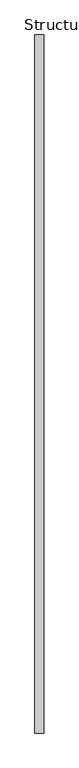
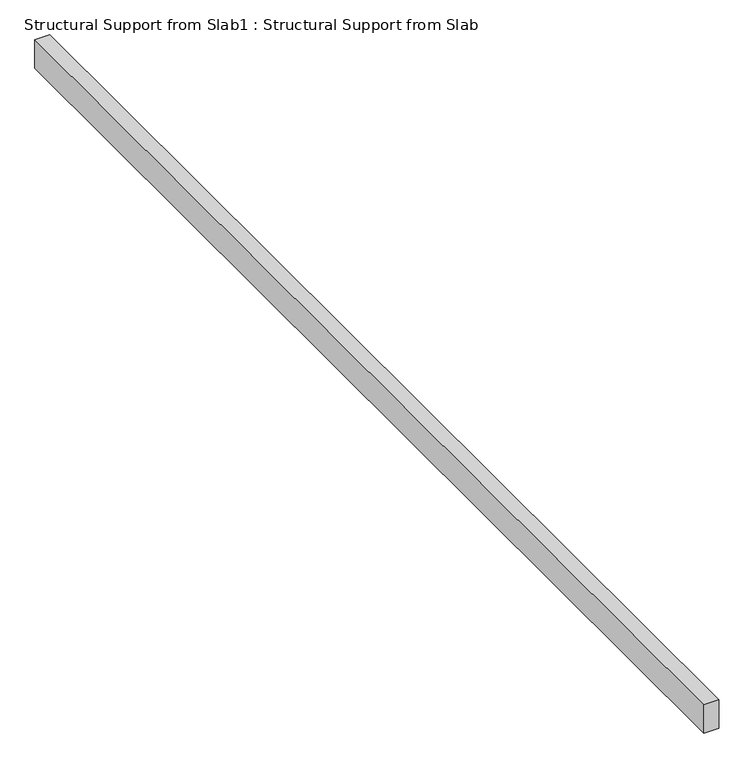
"""IFC4 building model written with IfcOpenShell, lengths in millimetres: beam geometry, Structural Support from Slab1 : Structural Support from Slab."""

from ifc_helpers import new_model, si_unit, frame, origin, place, context, project, spatial, polyline, outline, extrude, source, transform, mapped, element, save


def structural_support_from_slab1_structural_support_from_slab_da7f1bc3(model_context):
    return source(origin(), model_context, "Body", "SweptSolid", [
        extrude(outline(polyline([(-12080.8009875, 156.8566481), (-12233.2009875, 156.8566481), (-12233.2009875, 11995.9222731), (-12080.8009875, 11995.9222731), (-12080.8009875, 156.8566481)])), frame((0.0, 0.0, 4114.8), z_axis=(0.0, 0.0, 1.0), x_axis=(1.0, 0.0, 0.0)), (0.0, 0.0, 1.0), 304.8),
    ])


if __name__ == "__main__":
    model = new_model("IFC4")
    model_context = context("Model", 3, world=origin())
    ifc_project = project(units=[si_unit("LENGTHUNIT", "METRE", prefix="MILLI")], contexts=[model_context])
    site = spatial("IfcSite", under=ifc_project)
    building = spatial("IfcBuilding", under=site)
    placement = place(None, origin())
    structural_support_from_slab1_structural_support_from_slab_shape = structural_support_from_slab1_structural_support_from_slab_da7f1bc3(model_context)
    element("IfcBeam", 1, ObjectType="Structural Support from Slab1 : Structural Support from Slab", at=placement, inside=building, context=model_context, shape_type="MappedRepresentation", body=[
        mapped(structural_support_from_slab1_structural_support_from_slab_shape, transform((0.0, 0.0, 0.0), x_axis=(1.0, 0.0, 0.0), y_axis=(0.0, 1.0, 0.0), z_axis=(0.0, 0.0, 1.0))),
    ])
    save(model, "model.ifc")
